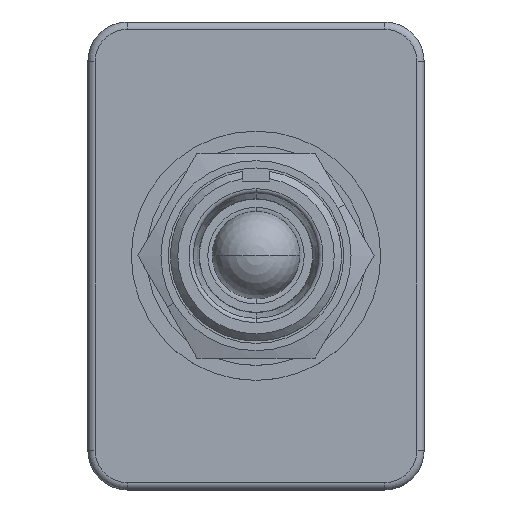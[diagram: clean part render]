
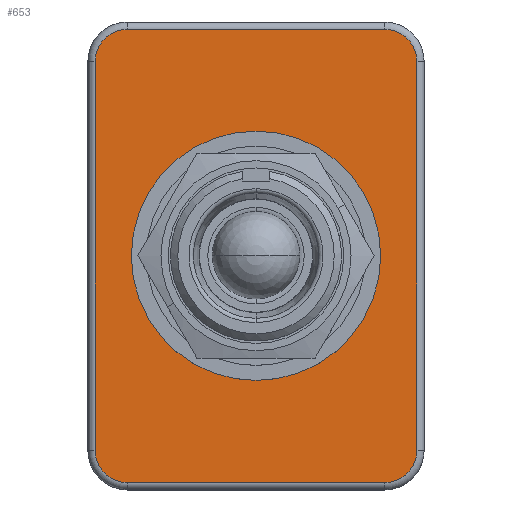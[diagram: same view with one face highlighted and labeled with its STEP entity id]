
A CAD part, top view. The second image highlights one B-rep face of the part: STEP entity #653.
In plain terms, the highlighted planar face has unit normal (0, 0, 1).
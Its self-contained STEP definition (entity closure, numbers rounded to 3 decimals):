
#83=CARTESIAN_POINT('',(24.8,-13.3,-15.7));
#84=DIRECTION('',(0.,0.,1.));
#85=DIRECTION('',(0.,-1.,0.));
#86=AXIS2_PLACEMENT_3D('',#83,#84,#85);
#88=DIRECTION('',(1.,0.,0.));
#89=VECTOR('',#88,17.6);
#90=CARTESIAN_POINT('',(7.2,-15.5,-15.7));
#91=LINE('',#90,#89);
#92=CARTESIAN_POINT('',(7.2,-13.3,-15.7));
#93=DIRECTION('',(0.,0.,1.));
#94=DIRECTION('',(-1.,0.,0.));
#95=AXIS2_PLACEMENT_3D('',#92,#93,#94);
#97=DIRECTION('',(0.,-1.,0.));
#98=VECTOR('',#97,26.6);
#99=CARTESIAN_POINT('',(5.,13.3,-15.7));
#100=LINE('',#99,#98);
#101=CARTESIAN_POINT('',(7.2,13.3,-15.7));
#102=DIRECTION('',(0.,0.,1.));
#103=DIRECTION('',(0.,1.,0.));
#104=AXIS2_PLACEMENT_3D('',#101,#102,#103);
#106=DIRECTION('',(-1.,0.,0.));
#107=VECTOR('',#106,17.6);
#108=CARTESIAN_POINT('',(24.8,15.5,-15.7));
#109=LINE('',#108,#107);
#110=CARTESIAN_POINT('',(24.8,13.3,-15.7));
#111=DIRECTION('',(0.,0.,1.));
#112=DIRECTION('',(1.,0.,0.));
#113=AXIS2_PLACEMENT_3D('',#110,#111,#112);
#115=DIRECTION('',(0.,1.,0.));
#116=VECTOR('',#115,26.6);
#117=CARTESIAN_POINT('',(27.,-13.3,-15.7));
#118=LINE('',#117,#116);
#119=DIRECTION('',(1.,0.,0.));
#120=VECTOR('',#119,1.9);
#121=CARTESIAN_POINT('',(15.05,6.1,-15.7));
#122=LINE('',#121,#120);
#123=DIRECTION('',(0.,1.,0.));
#124=VECTOR('',#123,0.179);
#125=CARTESIAN_POINT('',(15.05,6.1,-15.7));
#126=LINE('',#125,#124);
#127=DIRECTION('',(0.,-1.,0.));
#128=VECTOR('',#127,0.179);
#129=CARTESIAN_POINT('',(16.95,6.279,-15.7));
#130=LINE('',#129,#128);
#419=CARTESIAN_POINT('',(16.,0.,-15.7));
#420=DIRECTION('',(0.,0.,-1.));
#421=DIRECTION('',(0.15,0.989,0.));
#422=AXIS2_PLACEMENT_3D('',#419,#420,#421);
#424=CARTESIAN_POINT('',(15.05,6.279,-15.7));
#441=CARTESIAN_POINT('',(16.95,6.279,-15.7));
#487=CARTESIAN_POINT('',(24.8,-15.5,-15.7));
#488=CARTESIAN_POINT('',(27.,-13.3,-15.7));
#489=VERTEX_POINT('',#487);
#490=VERTEX_POINT('',#488);
#495=CARTESIAN_POINT('',(27.,13.3,-15.7));
#496=VERTEX_POINT('',#495);
#499=CARTESIAN_POINT('',(24.8,15.5,-15.7));
#500=VERTEX_POINT('',#499);
#503=CARTESIAN_POINT('',(7.2,15.5,-15.7));
#504=VERTEX_POINT('',#503);
#507=CARTESIAN_POINT('',(5.,13.3,-15.7));
#508=VERTEX_POINT('',#507);
#511=CARTESIAN_POINT('',(5.,-13.3,-15.7));
#512=VERTEX_POINT('',#511);
#515=CARTESIAN_POINT('',(7.2,-15.5,-15.7));
#516=VERTEX_POINT('',#515);
#539=VERTEX_POINT('',#441);
#540=VERTEX_POINT('',#424);
#541=CARTESIAN_POINT('',(16.95,6.1,-15.7));
#543=VERTEX_POINT('',#541);
#547=CARTESIAN_POINT('',(15.05,6.1,-15.7));
#548=VERTEX_POINT('',#547);
#621=CARTESIAN_POINT('',(16.,0.,-15.7));
#622=DIRECTION('',(0.,0.,1.));
#623=DIRECTION('',(0.,-1.,0.));
#624=AXIS2_PLACEMENT_3D('',#621,#622,#623);
#625=PLANE('',#624);
#626=ORIENTED_EDGE('',*,*,#611,.F.);
#628=ORIENTED_EDGE('',*,*,#627,.F.);
#630=ORIENTED_EDGE('',*,*,#629,.F.);
#632=ORIENTED_EDGE('',*,*,#631,.F.);
#634=ORIENTED_EDGE('',*,*,#633,.F.);
#636=ORIENTED_EDGE('',*,*,#635,.F.);
#638=ORIENTED_EDGE('',*,*,#637,.F.);
#640=ORIENTED_EDGE('',*,*,#639,.F.);
#641=EDGE_LOOP('',(#626,#628,#630,#632,#634,#636,#638,#640));
#642=FACE_OUTER_BOUND('',#641,.F.);
#644=ORIENTED_EDGE('',*,*,#643,.F.);
#646=ORIENTED_EDGE('',*,*,#645,.T.);
#648=ORIENTED_EDGE('',*,*,#647,.F.);
#650=ORIENTED_EDGE('',*,*,#649,.T.);
#651=EDGE_LOOP('',(#644,#646,#648,#650));
#652=FACE_BOUND('',#651,.F.);
#653=ADVANCED_FACE('',(#642,#652),#625,.T.);
#87=CIRCLE('',#86,2.2);
#96=CIRCLE('',#95,2.2);
#105=CIRCLE('',#104,2.2);
#114=CIRCLE('',#113,2.2);
#423=CIRCLE('',#422,6.35);
#611=EDGE_CURVE('',#489,#490,#87,.T.);
#627=EDGE_CURVE('',#516,#489,#91,.T.);
#629=EDGE_CURVE('',#512,#516,#96,.T.);
#631=EDGE_CURVE('',#508,#512,#100,.T.);
#633=EDGE_CURVE('',#504,#508,#105,.T.);
#635=EDGE_CURVE('',#500,#504,#109,.T.);
#637=EDGE_CURVE('',#496,#500,#114,.T.);
#639=EDGE_CURVE('',#490,#496,#118,.T.);
#643=EDGE_CURVE('',#548,#543,#122,.T.);
#645=EDGE_CURVE('',#548,#540,#126,.T.);
#647=EDGE_CURVE('',#539,#540,#423,.T.);
#649=EDGE_CURVE('',#539,#543,#130,.T.);
